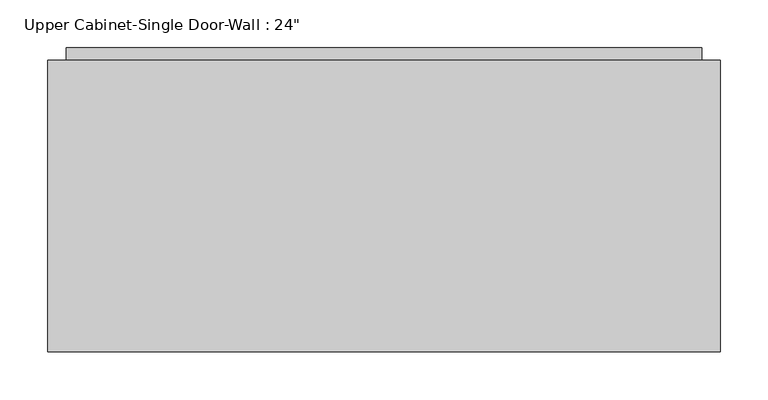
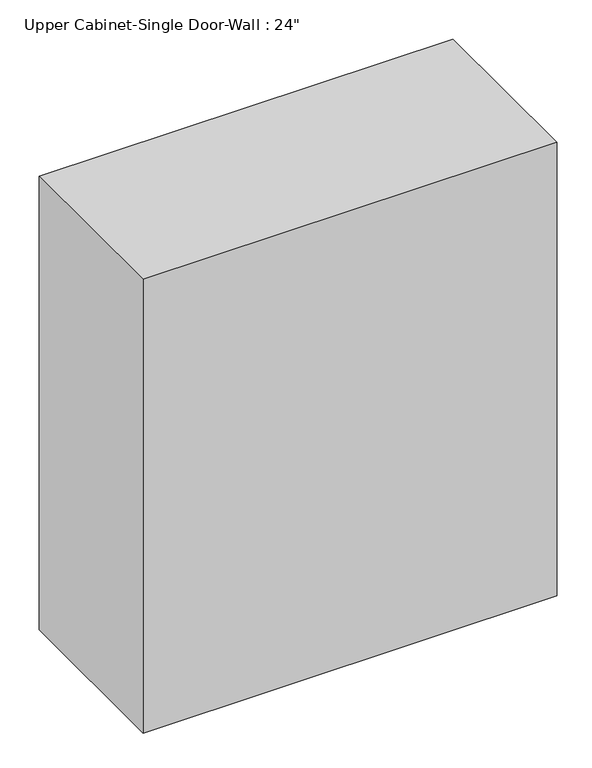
"""IFC4 building model written with IfcOpenShell, lengths in millimetres: furniture geometry."""

from ifc_helpers import new_model, si_unit, frame, origin, place, context, project, spatial, polyline, outline, extrude, faceted_brep, source, transform, mapped, element, save


def furniture_a372f8cd(model_context):
    return source(origin(), model_context, "Body", "SolidModel", [
        faceted_brep([(-443.5288372, 82.55, 2133.6), (-443.5288372, 82.55, 1320.8), (258.3711628, 82.55, 1320.8), (258.3711628, 82.55, 2133.6), (-443.5288372, 387.35, 2133.6), (258.3711628, 387.35, 2133.6), (258.3711628, 387.35, 1320.8), (-443.5288372, 387.35, 1320.8), (-424.4788372, 387.35, 2114.55), (-424.4788372, 387.35, 1339.85), (239.3211628, 387.35, 1339.85), (239.3211628, 387.35, 2114.55), (239.3211628, 101.6, 2114.55), (-424.4788372, 101.6, 2114.55), (239.3211628, 101.6, 1339.85), (-424.4788372, 101.6, 1339.85)], [[[0, 1, 2, 3]], [[4, 5, 6, 7], [8, 9, 10, 11]], [[1, 0, 4, 7]], [[2, 1, 7, 6]], [[3, 2, 6, 5]], [[0, 3, 5, 4]], [[8, 11, 12, 13]], [[11, 10, 14, 12]], [[10, 9, 15, 14]], [[9, 8, 13, 15]], [[13, 12, 14, 15]]]),
        extrude(outline(polyline([(-424.4788372, 400.05), (239.3211628, 400.05), (239.3211628, 368.3), (-424.4788372, 368.3), (-424.4788372, 400.05)])), frame((0.0, 0.0, 1339.85), z_axis=(0.0, 0.0, 1.0), x_axis=(1.0, 0.0, 0.0)), (0.0, 0.0, 1.0), 774.7),
    ])


if __name__ == "__main__":
    model = new_model("IFC4")
    model_context = context("Model", 3, world=origin())
    ifc_project = project(units=[si_unit("LENGTHUNIT", "METRE", prefix="MILLI")], contexts=[model_context])
    site = spatial("IfcSite", under=ifc_project)
    building = spatial("IfcBuilding", under=site)
    placement = place(None, origin())
    furniture_shape = furniture_a372f8cd(model_context)
    element("IfcFurniture", 1, ObjectType="Upper Cabinet-Single Door-Wall : 24\"", at=placement, inside=building, context=model_context, shape_type="MappedRepresentation", body=[
        mapped(furniture_shape, transform((0.0, 0.0, 0.0), x_axis=(1.0, 0.0, 0.0), y_axis=(0.0, 1.0, 0.0), z_axis=(0.0, 0.0, 1.0))),
    ])
    save(model, "model.ifc")
